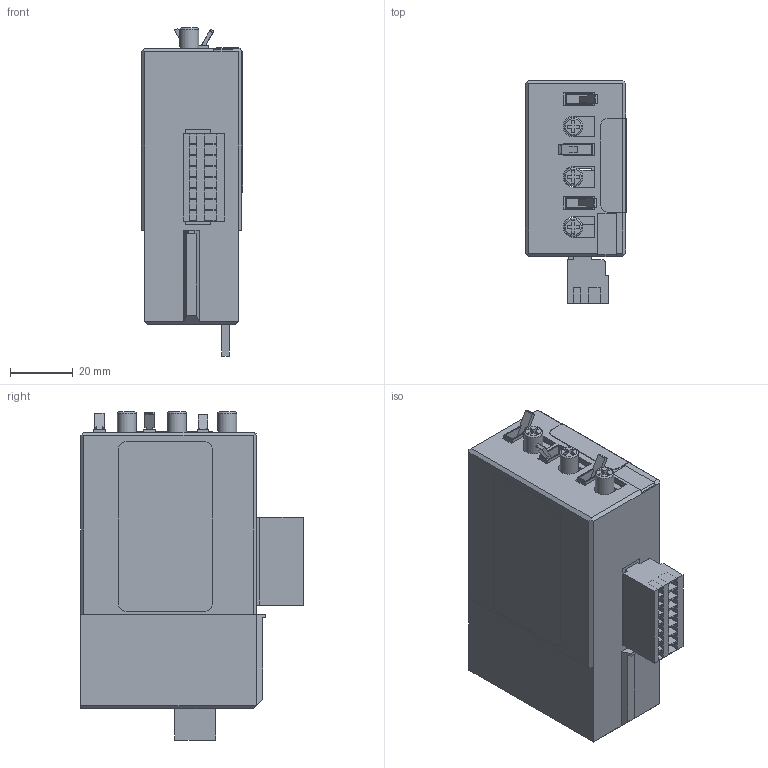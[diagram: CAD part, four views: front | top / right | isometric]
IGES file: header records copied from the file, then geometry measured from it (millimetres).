
Global section: file name: SBC_IGS_PLC_PCD3W800_Plug-J_2020-03-14.igs; native system: CAD Exchanger; preprocessor: CAD Exchanger 3.9.0 (cadexchanger.com); date: 20210108.110118; units: millimetre
Bounding box: 32.2 x 71 x 104.5 mm (x, y, z)
Volume: 57121.6 mm3; surface area: 54416.7 mm2
Topology: 18 solids, 18 shells, 385 faces, 919 edges, 597 vertices
Faces by surface type: plane 365, cylinder 17, torus 3
Full cylindrical faces by diameter (mm): 6 x3
